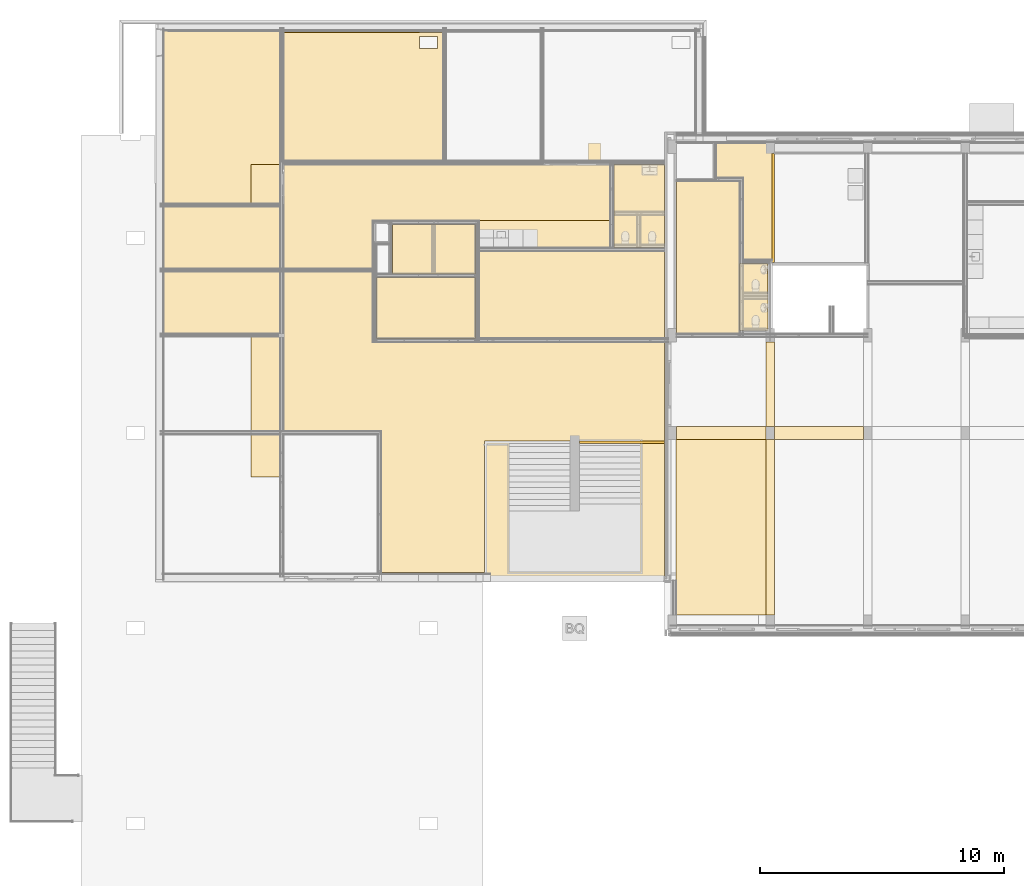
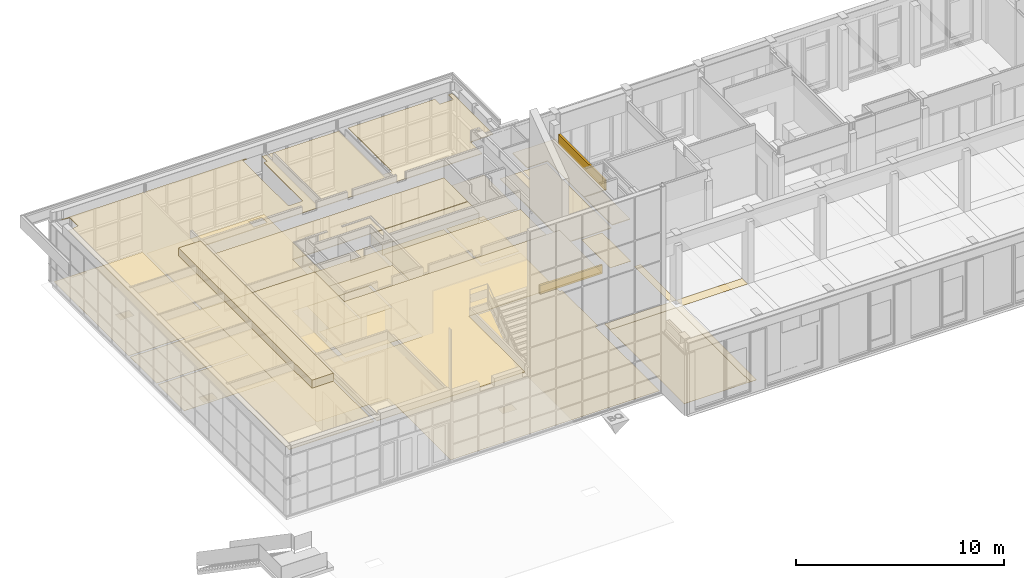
# One storey, part 86 of 109: 29 coverings.
"""IFC2X3 building model written with IfcOpenShell, lengths in millimetres."""

from ifc_helpers import new_model, entity, si_unit, converted_unit, derived_unit, money_unit, direction, frame, origin_with_axes, place, context, subcontext, project, spatial, faceted_brep, material, type_object, element, save


model = new_model("IFC2X3")

# Units and contexts
model_context = context("Model", 3, precision=0.01, world=origin_with_axes(), true_north=direction((0.0, 1.0)))
body_context = subcontext(model_context, "Body", "Model", "MODEL_VIEW")
ifc_project = project(units=[si_unit("LENGTHUNIT", "METRE", prefix="MILLI"), si_unit("AREAUNIT", "SQUARE_METRE"), si_unit("VOLUMEUNIT", "CUBIC_METRE"), converted_unit("PLANEANGLEUNIT", "DEGREE", entity("IfcPlaneAngleMeasure", 0.0174532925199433), si_unit("PLANEANGLEUNIT", "RADIAN"), dimensions=[0, 0, 0, 0, 0, 0, 0]), money_unit("EUR"), converted_unit("TIMEUNIT", "Year", entity("IfcTimeMeasure", 31557600.0), si_unit("TIMEUNIT", "SECOND"), dimensions=[0, 0, 1, 0, 0, 0, 0]), si_unit("MASSUNIT", "GRAM", prefix="KILO"), si_unit("THERMODYNAMICTEMPERATUREUNIT", "DEGREE_CELSIUS"), si_unit("LUMINOUSINTENSITYUNIT", "LUMEN"), si_unit("ENERGYUNIT", "JOULE", prefix="MEGA"), derived_unit("THERMALCONDUCTANCEUNIT", [(si_unit("POWERUNIT", "WATT"), 1), (si_unit("LENGTHUNIT", "METRE"), -1), (si_unit("THERMODYNAMICTEMPERATUREUNIT", "KELVIN"), -1)]), derived_unit("SPECIFICHEATCAPACITYUNIT", [(si_unit("ENERGYUNIT", "JOULE"), 1), (si_unit("MASSUNIT", "GRAM", prefix="KILO"), -1), (si_unit("THERMODYNAMICTEMPERATUREUNIT", "KELVIN"), -1)]), derived_unit("MASSDENSITYUNIT", [(si_unit("MASSUNIT", "GRAM", prefix="KILO"), 1), (si_unit("VOLUMEUNIT", "CUBIC_METRE"), -1)])], contexts=[model_context])

# Site, building, storey
site_placement = place(None, origin_with_axes())
site = spatial("IfcSite", under=ifc_project, at=site_placement, Name="<site naam>", CompositionType="ELEMENT")
building_placement = place(site_placement, origin_with_axes())
building = spatial("IfcBuilding", under=site, at=building_placement, Name="<Naam gebouw>", CompositionType="ELEMENT")
storey_placement = place(building_placement, origin_with_axes())
storey = spatial("IfcBuildingStorey", under=building, at=storey_placement, Name="00 Begane grond", CompositionType="ELEMENT", Elevation=0.0)

# Coverings
ifc_material_1 = material(Name="Gietvloer type 02a")
covering_type_1 = type_object("IfcCoveringType", Name="VA-02a 3", PredefinedType="CEILING")
covering_1_placement = place(storey_placement, frame((9596.980742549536, 15599.99998636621, 0.0), z_axis=(0.0, 0.0, 1.0), x_axis=(1.0, 0.0, 0.0)))
element("IfcCovering", 1, at=covering_1_placement, inside=storey, type_object=covering_type_1, material=ifc_material_1, Name="43_Vloer_VA-02a", PredefinedType="CEILING", context=body_context, shape_type="Brep", body=[
    faceted_brep([(0.0, 0.0, 3.0), (0.0, 0.0, 0.0), (2068.019257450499, 0.0, 0.0), (2068.019257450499, 0.0, 3.0), (0.0, 3400.000013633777, 3.0), (0.0, 3400.000013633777, 0.0), (2068.019257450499, 3400.000013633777, 0.0), (2068.019257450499, 3400.000013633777, 3.0)], [[[0, 1, 2, 3]], [[4, 5, 1, 0]], [[2, 1, 5, 6]], [[3, 2, 6, 7]], [[4, 0, 3, 7]], [[7, 6, 5, 4]]]),
])
covering_2_placement = place(storey_placement, frame((15903.78405320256, 14945.01731346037, 0.0), z_axis=(0.0, 0.0, 1.0), x_axis=(1.0, 0.0, 0.0)))
element("IfcCovering", 2, at=covering_2_placement, inside=storey, type_object=covering_type_1, material=ifc_material_1, Name="43_Vloer_VA-02a", PredefinedType="CEILING", context=body_context, shape_type="Brep", body=[
    faceted_brep([(0.0, 0.0, 3.0), (0.0, 0.0, 0.0), (-1148.960123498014, -1.235476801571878, 0.0), (-1148.960123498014, -1.235476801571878, 3.0), (1.165285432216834, -2750.440539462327, 3.0), (1.165285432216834, -2750.440539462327, 0.0), (-1147.795155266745, -2750.927322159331, 0.0), (-1147.795155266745, -2750.927322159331, 3.0)], [[[0, 1, 2, 3]], [[4, 5, 1, 0]], [[2, 1, 5, 6]], [[3, 2, 6, 7]], [[4, 0, 3, 7]], [[7, 6, 5, 4]]]),
])
ifc_material_2 = material(Name="systeemplafond 600*600 kleur wit")
covering_type_2 = type_object("IfcCoveringType", Name="PA-01a 40", PredefinedType="CEILING")
covering_3_placement = place(storey_placement, frame((14904.95500626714, 12275.00000000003, 2400.0), z_axis=(0.0, 0.0, 1.0), x_axis=(1.0, 0.0, 0.0)))
element("IfcCovering", 3, at=covering_3_placement, inside=storey, type_object=covering_type_2, material=ifc_material_2, Name="45_Vloer_PA-01a", PredefinedType="CEILING", context=body_context, shape_type="Brep", body=[
    faceted_brep([(0.0, 0.0, 40.00000000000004), (0.0, 0.0, 0.0), (1000.044993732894, 0.0, 0.0), (1000.044993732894, 0.0, 40.00000000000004), (0.0, 2669.524367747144, 40.00000000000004), (0.0, 2669.524367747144, 0.0), (1000.044993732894, 2669.524367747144, 0.0), (1000.044993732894, 2669.524367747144, 40.00000000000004)], [[[0, 1, 2, 3]], [[4, 5, 1, 0]], [[2, 1, 5, 6]], [[3, 2, 6, 7]], [[4, 0, 3, 7]], [[7, 6, 5, 4]]]),
])
covering_4_placement = place(storey_placement, frame((9596.980742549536, 15719.22228803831, 2400.0), z_axis=(0.0, 0.0, 1.0), x_axis=(1.0, 0.0, 0.0)))
element("IfcCovering", 4, at=covering_4_placement, inside=storey, type_object=covering_type_2, material=ifc_material_2, Name="45_Vloer_PA-01a", PredefinedType="CEILING", context=body_context, shape_type="Brep", body=[
    faceted_brep([(0.0, 0.0, 40.00000000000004), (0.0, 0.0, 0.0), (2068.019257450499, 0.0, 0.0), (2068.019257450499, 0.0, 40.00000000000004), (0.0, 3280.777711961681, 40.00000000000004), (0.0, 3280.777711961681, 0.0), (2068.019257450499, 3280.777711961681, 0.0), (2068.019257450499, 3280.777711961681, 40.00000000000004)], [[[0, 1, 2, 3]], [[4, 5, 1, 0]], [[2, 1, 5, 6]], [[3, 2, 6, 7]], [[4, 0, 3, 7]], [[7, 6, 5, 4]]]),
])
covering_5_placement = place(storey_placement, frame((-8784.463389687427, 24468.00024540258, 3560.0), z_axis=(0.0, 0.0, 1.0), x_axis=(1.0, 0.0, 0.0)))
element("IfcCovering", 5, at=covering_5_placement, inside=storey, type_object=covering_type_2, material=ifc_material_2, Name="45_Vloer_PA-01a", PredefinedType="CEILING", context=body_context, shape_type="Brep", body=[
    faceted_brep([(21722.43980493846, -242.5002461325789, 0.0), (21509.46338968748, -242.5002461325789, 0.0), (21509.46338968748, -242.5002461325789, 40.00000000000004), (21722.43980493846, -242.5002461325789, 40.00000000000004), (20759.46338968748, -718.000245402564, 0.0), (21509.46338968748, -718.000245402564, 0.0), (21722.43980493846, -4170.000245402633, 0.0), (20959.46338968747, -4170.000245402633, 0.0), (20959.46338968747, -4207.419532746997, 0.0), (20449.46338968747, -4207.419532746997, 0.0), (20449.46338624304, -5318.000293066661, 0.0), (4859.463389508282, -5318.000244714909, 0.0), (4859.463389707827, -5468.000245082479, 0.0), (3509.41530054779, -5468.000246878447, 0.0), (3509.41530054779, -18277.00024540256, 0.0), (4709.46338968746, -18277.00024540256, 0.0), (4709.46338968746, -22167.50024540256, 0.0), (0.0, -22167.50024540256, 0.0), (0.0, -958.6858732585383, 0.0), (580.388018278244, -868.000245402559, 0.0), (580.3880182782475, -68.00024540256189, 0.0), (145.1864477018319, 0.0, 0.0), (10409.46338968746, 0.0, 0.0), (10409.46338968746, -68.00024540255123, 0.0), (10180.38801827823, -68.00024540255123, 0.0), (10180.38801827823, -4468.000245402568, 0.0), (10980.38801827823, -4468.000245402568, 0.0), (10980.38801827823, -718.000245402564, 0.0), (11159.46338968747, -718.000245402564, 0.0), (11159.46338968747, -242.5002461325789, 0.0), (15442.88801827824, -242.5002461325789, 0.0), (15442.88801827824, -4468.000245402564, 0.0), (15942.88801827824, -4468.000245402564, 0.0), (15942.88801827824, -242.5002461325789, 0.0), (20759.46338968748, -242.5002461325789, 0.0), (21509.46338968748, -718.000245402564, 40.00000000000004), (20759.46338968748, -718.000245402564, 40.00000000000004), (20759.46338968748, -242.5002461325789, 40.00000000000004), (15942.88801827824, -242.5002461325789, 40.00000000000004), (15942.88801827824, -4468.000245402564, 40.00000000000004), (15442.88801827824, -4468.000245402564, 40.00000000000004), (15442.88801827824, -242.5002461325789, 40.00000000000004), (11159.46338968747, -242.5002461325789, 40.00000000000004), (11159.46338968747, -718.000245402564, 40.00000000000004), (10980.38801827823, -718.000245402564, 40.00000000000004), (10980.38801827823, -4468.000245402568, 40.00000000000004), (10180.38801827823, -4468.000245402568, 40.00000000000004), (10180.38801827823, -68.00024540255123, 40.00000000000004), (10409.46338968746, -68.00024540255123, 40.00000000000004), (10409.46338968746, 0.0, 40.00000000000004), (145.1864477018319, 0.0, 40.00000000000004), (580.3880182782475, -68.00024540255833, 40.00000000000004), (580.388018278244, -868.0002454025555, 40.00000000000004), (0.0, -958.6858732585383, 40.00000000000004), (0.0, -22167.50024540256, 40.00000000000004), (4709.46338968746, -22167.50024540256, 40.00000000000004), (4709.46338968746, -18277.00024540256, 40.00000000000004), (3509.41530054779, -18277.00024540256, 40.00000000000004), (3509.41530054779, -5468.000246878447, 40.00000000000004), (4859.463389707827, -5468.000245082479, 40.00000000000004), (4859.463389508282, -5318.000244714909, 40.00000000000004), (20449.46338624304, -5318.000293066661, 40.00000000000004), (20449.46338968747, -4207.419532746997, 40.00000000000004), (20959.46338968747, -4207.419532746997, 40.00000000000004), (20959.46338968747, -4170.000245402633, 40.00000000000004), (21722.43980493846, -4170.000245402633, 40.00000000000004)], [[[0, 1, 2, 3]], [[4, 5, 1, 0, 6, 7, 8, 9, 10, 11, 12, 13, 14, 15, 16, 17, 18, 19, 20, 21, 22, 23, 24, 25, 26, 27, 28, 29, 30, 31, 32, 33, 34]], [[5, 35, 2, 1]], [[35, 36, 37, 38, 39, 40, 41, 42, 43, 44, 45, 46, 47, 48, 49, 50, 51, 52, 53, 54, 55, 56, 57, 58, 59, 60, 61, 62, 63, 64, 65, 3, 2]], [[6, 0, 3, 65]], [[4, 36, 35, 5]], [[65, 64, 7, 6]], [[63, 8, 7, 64]], [[63, 62, 9, 8]], [[10, 9, 62, 61]], [[11, 10, 61, 60]], [[12, 11, 60, 59]], [[13, 12, 59, 58]], [[14, 13, 58, 57]], [[15, 14, 57, 56]], [[16, 15, 56, 55]], [[17, 16, 55, 54]], [[17, 54, 53, 18]], [[19, 18, 53, 52]], [[20, 19, 52, 51]], [[21, 20, 51, 50]], [[49, 22, 21, 50]], [[22, 49, 48, 23]], [[47, 24, 23, 48]], [[25, 24, 47, 46]], [[26, 25, 46, 45]], [[27, 26, 45, 44]], [[43, 28, 27, 44]], [[29, 28, 43, 42]], [[29, 42, 41, 30]], [[40, 31, 30, 41]], [[32, 31, 40, 39]], [[33, 32, 39, 38]], [[38, 37, 34, 33]], [[4, 34, 37, 36]]]),
])
covering_6_placement = place(storey_placement, frame((-3925.000176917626, 18999.99999999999, 3000.0), z_axis=(0.0, 0.0, 1.0), x_axis=(1.0, 0.0, 0.0)))
element("IfcCovering", 6, at=covering_6_placement, inside=storey, type_object=covering_type_2, material=ifc_material_2, Name="45_Vloer_PA-01a", PredefinedType="CEILING", context=body_context, shape_type="Brep", body=[
    faceted_brep([(0.0, 0.0, 40.00000000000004), (0.0, 0.0, 0.0), (0.0, -4270.833333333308, 0.0), (0.0, -4270.833333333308, 40.00000000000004), (13371.9809992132, 0.0, 40.00000000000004), (13371.9809992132, 0.0, 0.0), (13371.9809992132, -2300.000327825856, 0.0), (3650.000157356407, -2300.000078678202, 0.0), (3650.000157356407, -4270.833333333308, 0.0), (3650.000157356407, -4270.833333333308, 40.00000000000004), (3650.000157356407, -2300.000078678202, 40.00000000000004), (13371.9809992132, -2300.000327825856, 40.00000000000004)], [[[0, 1, 2, 3]], [[4, 5, 1, 0]], [[2, 1, 5, 6, 7, 8]], [[3, 2, 8, 9]], [[4, 0, 3, 9, 10, 11]], [[11, 6, 5, 4]], [[10, 7, 6, 11]], [[9, 8, 7, 10]]]),
])
covering_7_placement = place(storey_placement, frame((13775.00006648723, 18310.59603746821, 2400.0), z_axis=(0.0, 0.0, 1.0), x_axis=(1.0, 0.0, 0.0)))
element("IfcCovering", 7, at=covering_7_placement, inside=storey, type_object=covering_type_2, material=ifc_material_2, Name="45_Vloer_PA-01a", PredefinedType="CEILING", context=body_context, shape_type="Brep", body=[
    faceted_brep([(-1600.00006648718, 0.0, 40.00000000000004), (-1600.00006648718, 0.0, 0.0), (-1600.00006648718, -6235.610703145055, 0.0), (-1600.00006648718, -6235.610703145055, 40.00000000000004), (979.9549395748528, 0.0, 40.00000000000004), (979.9549395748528, 0.0, 0.0), (979.9549395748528, -3324.993107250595, 0.0), (979.958895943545, -3475.001851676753, 0.0), (980.0310414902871, -6235.5433285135, 0.0), (980.0310414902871, -6235.5433285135, 40.00000000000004), (979.958895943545, -3475.001851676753, 40.00000000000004), (979.9549395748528, -3324.993107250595, 40.00000000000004)], [[[0, 1, 2, 3]], [[4, 5, 1, 0]], [[1, 5, 6, 7, 8, 2]], [[3, 2, 8, 9]], [[4, 0, 3, 9, 10, 11]], [[11, 6, 5, 4]], [[10, 7, 6, 11]], [[9, 8, 7, 10]]]),
])
covering_8_placement = place(storey_placement, frame((13775.00006648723, 18460.59605461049, 2400.0), z_axis=(0.0, 0.0, 1.0), x_axis=(1.0, 0.0, 0.0)))
element("IfcCovering", 8, at=covering_8_placement, inside=storey, type_object=covering_type_2, material=ifc_material_2, Name="45_Vloer_PA-01a", PredefinedType="CEILING", context=body_context, shape_type="Brep", body=[
    faceted_brep([(1129.954956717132, 0.0, 40.00000000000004), (0.0, 0.0, 40.00000000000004), (0.0, 0.0, 0.0), (1129.954956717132, 0.0, 0.0), (2399.999925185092, 1423.423259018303, 40.00000000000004), (0.0, 1423.290837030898, 40.00000000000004), (1129.954956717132, -3475.000222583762, 40.00000000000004), (2399.999925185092, -3475.060499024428, 40.00000000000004), (0.0, 1423.290837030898, 0.0), (1129.954956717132, -3475.000222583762, 0.0), (2399.999925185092, 1423.423259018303, 0.0), (2399.999925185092, -3475.060499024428, 0.0)], [[[0, 1, 2, 3]], [[4, 5, 1, 0, 6, 7]], [[1, 5, 8, 2]], [[9, 3, 2, 8, 10, 11]], [[6, 0, 3, 9]], [[5, 4, 10, 8]], [[7, 6, 9, 11]], [[4, 7, 11, 10]]]),
])
ifc_material_3 = material(Name="systeemplafond 600*600")
covering_type_3 = type_object("IfcCoveringType", Name="PA-01c 40", PredefinedType="CEILING")
covering_9_placement = place(storey_placement, frame((4075.000000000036, 11875.00000000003, 2520.0), z_axis=(0.0, 0.0, 1.0), x_axis=(1.0, 0.0, 0.0)))
element("IfcCovering", 9, at=covering_9_placement, inside=storey, type_object=covering_type_3, material=ifc_material_3, Name="45_Vloer_PA-01c", PredefinedType="CEILING", context=body_context, shape_type="Brep", body=[
    faceted_brep([(0.0, 0.0, 40.00000000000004), (0.0, 0.0, 0.0), (7590.0, 0.0, 0.0), (7590.0, 0.0, 40.00000000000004), (0.0, 3575.000010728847, 40.00000000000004), (0.0, 3575.000010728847, 0.0), (7590.0, 3575.000010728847, 0.0), (7590.0, 3575.000010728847, 40.00000000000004)], [[[0, 1, 2, 3]], [[4, 5, 1, 0]], [[2, 1, 5, 6]], [[3, 2, 6, 7]], [[4, 0, 3, 7]], [[7, 6, 5, 4]]]),
])
ifc_material_4 = material(Name="tapijttegel")
covering_type_4 = type_object("IfcCoveringType", Name="VA-05 3", PredefinedType="CEILING")
covering_10_placement = place(storey_placement, frame((-3924.999999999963, 14604.16666666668, 0.0), z_axis=(0.0, 0.0, 1.0), x_axis=(1.0, 0.0, 0.0)))
element("IfcCovering", 10, at=covering_10_placement, inside=storey, type_object=covering_type_4, material=ifc_material_4, Name="43_Vloer_VA-05", PredefinedType="CEILING", context=body_context, shape_type="Brep", body=[
    faceted_brep([(0.0, 0.0, 3.0), (0.0, 0.0, 0.0), (-5043.963389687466, 0.0, 0.0), (-5043.963389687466, 0.0, 3.0), (0.0, -2541.666666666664, 3.0), (0.0, -2541.666666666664, 0.0), (-5043.963389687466, -2541.666666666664, 0.0), (-5043.963389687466, -2541.666666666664, 3.0)], [[[0, 1, 2, 3]], [[4, 5, 1, 0]], [[2, 1, 5, 6]], [[3, 2, 6, 7]], [[4, 0, 3, 7]], [[7, 6, 5, 4]]]),
])
covering_11_placement = place(storey_placement, frame((-3924.999999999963, 17270.83333333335, 0.0), z_axis=(0.0, 0.0, 1.0), x_axis=(1.0, 0.0, 0.0)))
element("IfcCovering", 11, at=covering_11_placement, inside=storey, type_object=covering_type_4, material=ifc_material_4, Name="43_Vloer_VA-05", PredefinedType="CEILING", context=body_context, shape_type="Brep", body=[
    faceted_brep([(0.0, 0.0, 3.0), (0.0, 0.0, 0.0), (-5043.963389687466, 0.0, 0.0), (-5043.963389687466, 0.0, 3.0), (0.0, -2541.666666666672, 3.0), (0.0, -2541.666666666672, 0.0), (-5043.963389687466, -2541.666666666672, 0.0), (-5043.963389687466, -2541.666666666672, 3.0)], [[[0, 1, 2, 3]], [[4, 5, 1, 0]], [[2, 1, 5, 6]], [[3, 2, 6, 7]], [[4, 0, 3, 7]], [[7, 6, 5, 4]]]),
])
covering_12_placement = place(storey_placement, frame((-3937.499999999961, 19000.01549908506, 0.0), z_axis=(0.0, 0.0, 1.0), x_axis=(1.0, 0.0, 0.0)))
element("IfcCovering", 12, at=covering_12_placement, inside=storey, type_object=covering_type_4, material=ifc_material_4, Name="43_Vloer_VA-05", PredefinedType="CEILING", context=body_context, shape_type="Brep", body=[
    faceted_brep([(0.0, 0.0, 3.0), (0.0, 0.0, 0.0), (6541.666666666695, -0.01549908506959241, 0.0), (6541.666666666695, -0.01549908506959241, 3.0), (0.0, 5409.984496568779, 3.0), (0.0, 5409.984496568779, 0.0), (6541.666666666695, 5409.984496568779, 0.0), (6312.500021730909, 5249.984517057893, 0.0), (5562.499977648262, 5249.984517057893, 0.0), (5562.499977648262, 4749.984520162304, 0.0), (6312.500021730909, 4749.984520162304, 0.0), (6541.666666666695, 5409.984496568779, 3.0), (5562.499977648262, 4749.984520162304, 3.0), (5562.499977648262, 5249.984517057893, 3.0), (6312.500021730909, 5249.984517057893, 3.0), (6312.500021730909, 4749.984520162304, 3.0)], [[[0, 1, 2, 3]], [[4, 5, 1, 0]], [[2, 1, 5, 6], [7, 8, 9, 10]], [[3, 2, 6, 11]], [[4, 0, 3, 11], [12, 13, 14, 15]], [[11, 6, 5, 4]], [[13, 8, 7, 14]], [[12, 9, 8, 13]], [[15, 10, 9, 12]], [[14, 7, 10, 15]]]),
])
covering_13_placement = place(storey_placement, frame((-8976.46338968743, 17395.83333333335, 0.0), z_axis=(0.0, 0.0, 1.0), x_axis=(1.0, 0.0, 0.0)))
element("IfcCovering", 13, at=covering_13_placement, inside=storey, type_object=covering_type_4, material=ifc_material_4, Name="43_Vloer_VA-05", PredefinedType="CEILING", context=body_context, shape_type="Brep", body=[
    faceted_brep([(0.0, 0.0, 3.0), (0.0, 0.0, 0.0), (5051.463395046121, 0.0, 0.0), (5051.463395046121, 0.0, 3.0), (0.0, 7188.1657932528, 3.0), (0.0, 7188.1657932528, 0.0), (4913.963372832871, 7188.1657932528, 0.0), (4913.963372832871, 1754.166669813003, 0.0), (4901.463437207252, 1754.166669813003, 0.0), (4901.463437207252, 1604.166711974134, 0.0), (5051.463395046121, 1604.166711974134, 0.0), (5051.463395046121, 1604.166711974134, 3.0), (4901.463437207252, 1604.166711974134, 3.0), (4901.463437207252, 1754.166669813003, 3.0), (4913.963372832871, 1754.166669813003, 3.0), (4913.963372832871, 7188.1657932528, 3.0)], [[[0, 1, 2, 3]], [[4, 5, 1, 0]], [[2, 1, 5, 6, 7, 8, 9, 10]], [[3, 2, 10, 11]], [[4, 0, 3, 11, 12, 13, 14, 15]], [[15, 6, 5, 4]], [[14, 7, 6, 15]], [[13, 8, 7, 14]], [[12, 9, 8, 13]], [[11, 10, 9, 12]]]),
])
covering_14_placement = place(storey_placement, frame((-124.999999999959, 11875.00000000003, 150.0), z_axis=(0.0, 0.0, 1.0), x_axis=(1.0, 0.0, 0.0)))
element("IfcCovering", 14, at=covering_14_placement, inside=storey, type_object=covering_type_4, material=ifc_material_4, Name="43_Vloer_VA-05", PredefinedType="CEILING", context=body_context, shape_type="Brep", body=[
    faceted_brep([(0.0, 0.0, 3.000000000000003), (0.0, 0.0, 0.0), (4049.999999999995, 0.0, 0.0), (4049.999999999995, 0.0, 3.000000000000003), (0.0, 2500.000000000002, 3.000000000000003), (0.0, 2500.000000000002, 0.0), (4049.999999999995, 2500.000000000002, 0.0), (4049.999999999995, 2500.000000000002, 3.000000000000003)], [[[0, 1, 2, 3]], [[4, 5, 1, 0]], [[2, 1, 5, 6]], [[3, 2, 6, 7]], [[4, 0, 3, 7]], [[7, 6, 5, 4]]]),
])
covering_15_placement = place(storey_placement, frame((525.0444681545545, 14525.00000000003, 0.0), z_axis=(0.0, 0.0, 1.0), x_axis=(1.0, 0.0, 0.0)))
element("IfcCovering", 15, at=covering_15_placement, inside=storey, type_object=covering_type_4, material=ifc_material_4, Name="43_Vloer_VA-05", PredefinedType="CEILING", context=body_context, shape_type="Brep", body=[
    faceted_brep([(0.0, 0.0, 3.0), (0.0, 0.0, 0.0), (1637.45551365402, 0.0, 0.0), (1637.45551365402, 0.0, 3.0), (0.0, 2175.000020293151, 3.0), (0.0, 2175.000020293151, 0.0), (1637.45551365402, 2175.000020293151, 0.0), (1637.45551365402, 2175.000020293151, 3.0)], [[[0, 1, 2, 3]], [[4, 5, 1, 0]], [[2, 1, 5, 6]], [[3, 2, 6, 7]], [[4, 0, 3, 7]], [[7, 6, 5, 4]]]),
])
covering_16_placement = place(storey_placement, frame((2287.500003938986, 16700.00002029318, 0.0), z_axis=(0.0, 0.0, 1.0), x_axis=(1.0, 0.0, 0.0)))
element("IfcCovering", 16, at=covering_16_placement, inside=storey, type_object=covering_type_4, material=ifc_material_4, Name="43_Vloer_VA-05", PredefinedType="CEILING", context=body_context, shape_type="Brep", body=[
    faceted_brep([(0.0, 0.0, 3.0), (0.0, 0.0, 0.0), (0.0, -2175.000020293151, 0.0), (0.0, -2175.000020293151, 3.0), (1637.499996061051, 0.0, 3.0), (1637.499996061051, 0.0, 0.0), (1637.499996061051, -2175.000020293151, 0.0), (1637.499996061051, -2175.000020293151, 3.0)], [[[0, 1, 2, 3]], [[4, 5, 1, 0]], [[2, 1, 5, 6]], [[3, 2, 6, 7]], [[4, 0, 3, 7]], [[7, 6, 5, 4]]]),
])
ifc_material_5 = material(Name="Vinyl type 01b")
covering_type_5 = type_object("IfcCoveringType", Name="VA-01b 3", PredefinedType="CEILING")
covering_17_placement = place(storey_placement, frame((-3925.000083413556, 8074.999864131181, 0.0), z_axis=(0.0, 0.0, 1.0), x_axis=(1.0, 0.0, 0.0)))
element("IfcCovering", 17, at=covering_17_placement, inside=storey, type_object=covering_type_5, material=ifc_material_5, Name="43_Vloer_VA-01b", PredefinedType="CEILING", context=body_context, shape_type="Brep", body=[
    faceted_brep([(0.0, 0.0, 3.0), (0.0, 0.0, 0.0), (4000.00040937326, 0.0, 0.0), (4000.00040937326, 0.0, 3.0), (0.0, 10925.00018736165, 3.0), (0.0, 10925.00018736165, 0.0), (13371.98078984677, 10925.00018736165, 0.0), (13371.98078984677, 7374.999990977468, 0.0), (15589.99995957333, 7374.999990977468, 0.0), (15589.99995957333, 3650.000187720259, 0.0), (15749.9998953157, 3650.000187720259, 0.0), (15750.00014729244, 200.0002346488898, 0.0), (15589.99995957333, 200.0002346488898, 0.0), (15589.99995957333, -5984.8561822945, 0.0), (4000.00040937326, -5984.8561822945, 0.0), (8000.00031479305, 8625.000134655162, 0.0), (3650.000439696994, 8625.000134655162, 0.0), (3650.000439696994, 3650.000187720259, 0.0), (8000.00031479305, 3650.000187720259, 0.0), (4000.00040937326, -5984.8561822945, 3.0), (15589.99995957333, -5984.8561822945, 3.0), (15589.99995957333, 200.0002346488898, 3.0), (15750.00014729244, 200.0002346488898, 3.0), (15749.9998953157, 3650.000187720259, 3.0), (15589.99995957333, 3650.000187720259, 3.0), (15589.99995957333, 7374.999990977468, 3.0), (13371.98078984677, 7374.999990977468, 3.0), (13371.98078984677, 10925.00018736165, 3.0), (3650.000439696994, 8625.000134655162, 3.0), (8000.00031479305, 8625.000134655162, 3.0), (8000.00031479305, 3650.000187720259, 3.0), (3650.000439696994, 3650.000187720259, 3.0)], [[[0, 1, 2, 3]], [[4, 5, 1, 0]], [[2, 1, 5, 6, 7, 8, 9, 10, 11, 12, 13, 14], [15, 16, 17, 18]], [[3, 2, 14, 19]], [[4, 0, 3, 19, 20, 21, 22, 23, 24, 25, 26, 27], [28, 29, 30, 31]], [[27, 6, 5, 4]], [[26, 7, 6, 27]], [[25, 8, 7, 26]], [[24, 9, 8, 25]], [[23, 10, 9, 24]], [[22, 11, 10, 23]], [[21, 12, 11, 22]], [[20, 13, 12, 21]], [[19, 14, 13, 20]], [[28, 16, 15, 29]], [[31, 17, 16, 28]], [[30, 18, 17, 31]], [[29, 15, 18, 30]]]),
])
covering_18_placement = place(storey_placement, frame((12150.00003775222, 550.0000000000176, 0.0), z_axis=(0.0, 0.0, 1.0), x_axis=(1.0, 0.0, 0.0)))
element("IfcCovering", 18, at=covering_18_placement, inside=storey, type_object=covering_type_5, material=ifc_material_5, Name="43_Vloer_VA-01b", PredefinedType="CEILING", context=body_context, shape_type="Brep", body=[
    faceted_brep([(0.0, 0.0, 3.0), (0.0, 0.0, 0.0), (3674.999962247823, 0.0, 0.0), (3674.999962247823, 0.0, 3.0), (0.0, 7175.000000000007, 3.0), (0.0, 7175.000000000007, 0.0), (3674.999962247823, 7175.000000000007, 0.0), (3674.999962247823, 7175.000000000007, 3.0)], [[[0, 1, 2, 3]], [[4, 5, 1, 0]], [[2, 1, 5, 6]], [[3, 2, 6, 7]], [[4, 0, 3, 7]], [[7, 6, 5, 4]]]),
])
ifc_material_6 = material(Name="systeemplafond 600*600 kleur ntb.")
covering_type_6 = type_object("IfcCoveringType", Name="PA-01d 40", PredefinedType="CEILING")
covering_19_placement = place(storey_placement, frame((-124.9999540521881, 14375.00003888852, 2600.0), z_axis=(0.0, 0.0, 1.0), x_axis=(1.0, 0.0, 0.0)))
element("IfcCovering", 19, at=covering_19_placement, inside=storey, type_object=covering_type_6, material=ifc_material_6, Name="45_Vloer_PA-01d", PredefinedType="CEILING", context=body_context, shape_type="Brep", body=[
    faceted_brep([(0.0, 0.0, 40.00000000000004), (0.0, 0.0, 0.0), (0.0, -2500.000038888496, 0.0), (0.0, -2500.000038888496, 40.00000000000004), (4049.99995293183, 0.0, 40.00000000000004), (4049.99995293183, 0.0, 0.0), (4049.99995293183, -2500.000038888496, 0.0), (4049.99995293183, -2500.000038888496, 40.00000000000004)], [[[0, 1, 2, 3]], [[4, 5, 1, 0]], [[2, 1, 5, 6]], [[3, 2, 6, 7]], [[0, 3, 7, 4]], [[7, 6, 5, 4]]]),
])
covering_20_placement = place(storey_placement, frame((525.0445072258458, 16550.0000672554, 2400.0), z_axis=(0.0, 0.0, 1.0), x_axis=(1.0, 0.0, 0.0)))
element("IfcCovering", 20, at=covering_20_placement, inside=storey, type_object=covering_type_6, material=ifc_material_6, Name="45_Vloer_PA-01d", PredefinedType="CEILING", context=body_context, shape_type="Brep", body=[
    faceted_brep([(0.0, 0.0, 40.00000000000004), (0.0, 0.0, 0.0), (0.0, -2025.000067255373, 0.0), (0.0, -2025.000067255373, 40.00000000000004), (3399.955491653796, 0.0, 40.00000000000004), (3399.955491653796, 0.0, 0.0), (3399.955491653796, -2025.000067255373, 0.0), (3399.955491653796, -2025.000067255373, 40.00000000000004)], [[[0, 1, 2, 3]], [[4, 5, 1, 0]], [[2, 1, 5, 6]], [[3, 2, 6, 7]], [[0, 3, 7, 4]], [[7, 6, 5, 4]]]),
])
ifc_material_7 = material(Name="aftimmering/koven multiplex")
covering_type_7 = type_object("IfcCoveringType", Name="aftimmering/koven multiplex 625", PredefinedType="CEILING")
covering_21_placement = place(storey_placement, frame((4075.000079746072, 16699.99967217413, 2400.0), z_axis=(0.0, 0.0, 1.0), x_axis=(1.0, 0.0, 0.0)))
element("IfcCovering", 21, at=covering_21_placement, inside=storey, type_object=covering_type_7, material=ifc_material_7, Name="45_Vloer_aftimmering/koven", PredefinedType="CEILING", context=body_context, shape_type="Brep", body=[
    faceted_brep([(0.0, 0.0, 625.0), (0.0, 0.0, 0.0), (0.0, -1099.999999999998, 0.0), (0.0, -1099.999999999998, 625.0), (5371.9807425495, 0.0, 625.0), (5371.9807425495, 0.0, 0.0), (5371.9807425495, -1099.999999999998, 0.0), (5371.9807425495, -1099.999999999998, 625.0)], [[[0, 1, 2, 3]], [[4, 5, 1, 0]], [[2, 1, 5, 6]], [[3, 2, 6, 7]], [[4, 0, 3, 7]], [[7, 6, 5, 4]]]),
])
covering_type_8 = type_object("IfcCoveringType", Name="aftimmering/koven multiplex 600", PredefinedType="CEILING")
covering_22_placement = place(storey_placement, frame((16175.00000000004, 14985.5355143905, 2400.0), z_axis=(0.0, 0.0, 1.0), x_axis=(1.0, 0.0, 0.0)))
element("IfcCovering", 22, at=covering_22_placement, inside=storey, type_object=covering_type_8, material=ifc_material_7, Name="45_Vloer_aftimmering/koven", PredefinedType="CEILING", context=body_context, shape_type="Brep", body=[
    faceted_brep([(0.0, 0.0, 600.0000000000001), (0.0, 0.0, 0.0), (0.0, 4464.464485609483, 0.0), (0.0, 4464.464485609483, 600.0000000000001), (-100.0000000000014, 0.0, 600.0000000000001), (-100.0000000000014, 0.0, 0.0), (-100.0000000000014, 4464.464485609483, 0.0), (-100.0000000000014, 4464.464485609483, 600.0000000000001)], [[[0, 1, 2, 3]], [[4, 5, 1, 0]], [[2, 1, 5, 6]], [[3, 2, 6, 7]], [[4, 0, 3, 7]], [[7, 6, 5, 4]]]),
])
ifc_material_8 = material(Name="Gipsplafond Rigitone")
covering_type_9 = type_object("IfcCoveringType", Name="PA-03 25", PredefinedType="CEILING")
covering_23_placement = place(storey_placement, frame((-3925.000176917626, 2280.000000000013, 3560.0), z_axis=(0.0, 0.0, 1.0), x_axis=(1.0, 0.0, 0.0)))
element("IfcCovering", 23, at=covering_23_placement, inside=storey, type_object=covering_type_9, material=ifc_material_8, Name="45_Vloer_PA-03", PredefinedType="CEILING", context=body_context, shape_type="Brep", body=[
    faceted_brep([(0.0, 0.0, 24.99999999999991), (0.0, 0.0, 0.0), (8226.647954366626, 0.0, 0.0), (8226.647954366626, 0.0, 24.99999999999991), (0.0, 12324.16666666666, 24.99999999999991), (0.0, 12324.16666666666, 0.0), (3650.000157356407, 12324.16666666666, 0.0), (3650.000157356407, 9444.999908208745, 0.0), (15590.00003933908, 9444.999908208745, 0.0), (15590.00028848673, 5391.526553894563, 0.0), (8226.647954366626, 5391.526553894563, 0.0), (8226.647954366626, 5391.526553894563, 24.99999999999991), (15590.00028848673, 5391.526553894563, 24.99999999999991), (15590.00003933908, 9444.999908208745, 24.99999999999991), (3650.000157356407, 9444.999908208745, 24.99999999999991), (3650.000157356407, 12324.16666666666, 24.99999999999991)], [[[0, 1, 2, 3]], [[4, 5, 1, 0]], [[2, 1, 5, 6, 7, 8, 9, 10]], [[3, 2, 10, 11]], [[4, 0, 3, 11, 12, 13, 14, 15]], [[15, 6, 5, 4]], [[14, 7, 6, 15]], [[13, 8, 7, 14]], [[12, 9, 8, 13]], [[11, 10, 9, 12]]]),
])
ifc_material_9 = material(Name="koven gips")
covering_type_10 = type_object("IfcCoveringType", Name="koven gips 1070", PredefinedType="CEILING")
covering_24_placement = place(storey_placement, frame((-5275.048195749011, 6191.000000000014, 3000.0), z_axis=(0.0, 0.0, 1.0), x_axis=(1.0, 0.0, 0.0)))
element("IfcCovering", 24, at=covering_24_placement, inside=storey, type_object=covering_type_10, material=ifc_material_9, Name="45_Vloer_koven", PredefinedType="CEILING", context=body_context, shape_type="Brep", body=[
    faceted_brep([(0.0, 0.0, 1069.999999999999), (0.0, 0.0, 0.0), (1200.048190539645, 0.0, 0.0), (1200.048190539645, 0.0, 1069.999999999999), (0.0, 12808.99999999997, 1069.999999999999), (0.0, 12808.99999999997, 0.0), (1200.048190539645, 12808.99999999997, 0.0), (1200.048190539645, 12808.99999999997, 1069.999999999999)], [[[0, 1, 2, 3]], [[4, 5, 1, 0]], [[2, 1, 5, 6]], [[3, 2, 6, 7]], [[4, 0, 3, 7]], [[7, 6, 5, 4]]]),
])
covering_type_11 = type_object("IfcCoveringType", Name="koven gips 510", PredefinedType="CEILING")
covering_25_placement = place(storey_placement, frame((11665.00000000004, 7671.526524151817, 3560.0), z_axis=(0.0, 0.0, 1.0), x_axis=(1.0, 0.0, 0.0)))
element("IfcCovering", 25, at=covering_25_placement, inside=storey, type_object=covering_type_11, material=ifc_material_9, Name="45_Vloer_koven", PredefinedType="CEILING", context=body_context, shape_type="Brep", body=[
    faceted_brep([(0.0, 0.0, 509.9999999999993), (0.0, 0.0, 0.0), (-3464.999366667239, 0.0, 0.0), (-3464.999366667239, 0.0, 509.9999999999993), (0.0, -99.99163599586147, 509.9999999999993), (0.0, -99.99163599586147, 0.0), (-3464.999366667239, -99.99163599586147, 0.0), (-3464.999366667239, -99.99163599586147, 509.9999999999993)], [[[0, 1, 2, 3]], [[4, 5, 1, 0]], [[2, 1, 5, 6]], [[3, 2, 6, 7]], [[4, 0, 3, 7]], [[7, 6, 5, 4]]]),
])
ifc_material_10 = material(Name="Vinyl type 01f")
covering_type_12 = type_object("IfcCoveringType", Name="VA-01f 3", PredefinedType="CEILING")
covering_26_placement = place(storey_placement, frame((15825.00000000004, 8275.000000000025, 0.0), z_axis=(0.0, 0.0, 1.0), x_axis=(1.0, 0.0, 0.0)))
element("IfcCovering", 26, at=covering_26_placement, inside=storey, type_object=covering_type_12, material=ifc_material_10, Name="43_Vloer_VA-01f", PredefinedType="CEILING", context=body_context, shape_type="Brep", body=[
    faceted_brep([(0.0, 0.0, 3.0), (0.0, 0.0, 0.0), (350.0000000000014, 0.0, 0.0), (350.0000000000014, 0.0, 3.0), (0.0, 3449.999999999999, 3.0), (0.0, 3449.999999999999, 0.0), (350.0000000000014, 3449.999999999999, 0.0), (350.0000000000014, 3449.999999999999, 3.0)], [[[0, 1, 2, 3]], [[4, 5, 1, 0]], [[2, 1, 5, 6]], [[3, 2, 6, 7]], [[4, 0, 3, 7]], [[7, 6, 5, 4]]]),
])
for number, where, z_axis, x_axis, name in (
    (27, (12175.00000000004, 7725.000000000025, 0.0), (0.0, 0.0, 1.0), (1.0, 0.0, 0.0), "43_Vloer_VA-01f"),
    (28, (16175.00000000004, 7725.000000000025, 0.0), (0.0, 0.0, 1.0), (1.0, 0.0, 0.0), "43_Vloer_VA-01f"),
):
    element("IfcCovering", number, at=place(storey_placement, frame(where, z_axis=z_axis, x_axis=x_axis)), inside=storey, type_object=covering_type_12, material=ifc_material_10, Name=name, PredefinedType="CEILING", context=body_context, shape_type="Brep", body=[
        faceted_brep([(0.0, 0.0, 3.0), (0.0, 0.0, 0.0), (3649.999999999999, 0.0, 0.0), (3649.999999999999, 0.0, 3.0), (0.0, 550.0000000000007, 3.0), (0.0, 550.0000000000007, 0.0), (3649.999999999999, 550.0000000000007, 0.0), (3649.999999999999, 550.0000000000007, 3.0)], [[[0, 1, 2, 3]], [[4, 5, 1, 0]], [[2, 1, 5, 6]], [[3, 2, 6, 7]], [[4, 0, 3, 7]], [[7, 6, 5, 4]]]),
    ])
covering_27_placement = place(storey_placement, frame((15825.00000000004, 550.0000000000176, 0.0), z_axis=(0.0, 0.0, 1.0), x_axis=(1.0, 0.0, 0.0)))
element("IfcCovering", 29, at=covering_27_placement, inside=storey, type_object=covering_type_12, material=ifc_material_10, Name="43_Vloer_VA-01f", PredefinedType="CEILING", context=body_context, shape_type="Brep", body=[
    faceted_brep([(0.0, 0.0, 3.0), (0.0, 0.0, 0.0), (350.0000000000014, 0.0, 0.0), (350.0000000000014, 0.0, 3.0), (0.0, 7175.000000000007, 3.0), (0.0, 7175.000000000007, 0.0), (350.0000000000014, 7175.000000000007, 0.0), (350.0000000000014, 7175.000000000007, 3.0)], [[[0, 1, 2, 3]], [[4, 5, 1, 0]], [[2, 1, 5, 6]], [[3, 2, 6, 7]], [[4, 0, 3, 7]], [[7, 6, 5, 4]]]),
])

save(model, "model.ifc")
